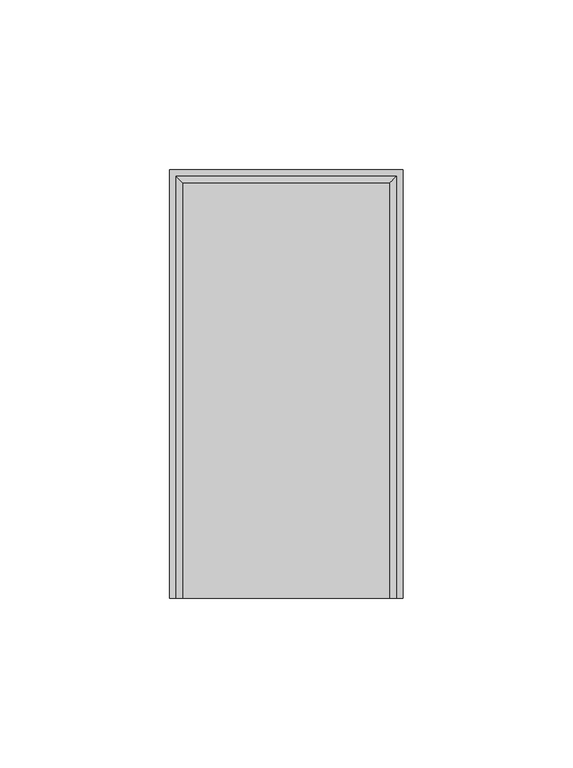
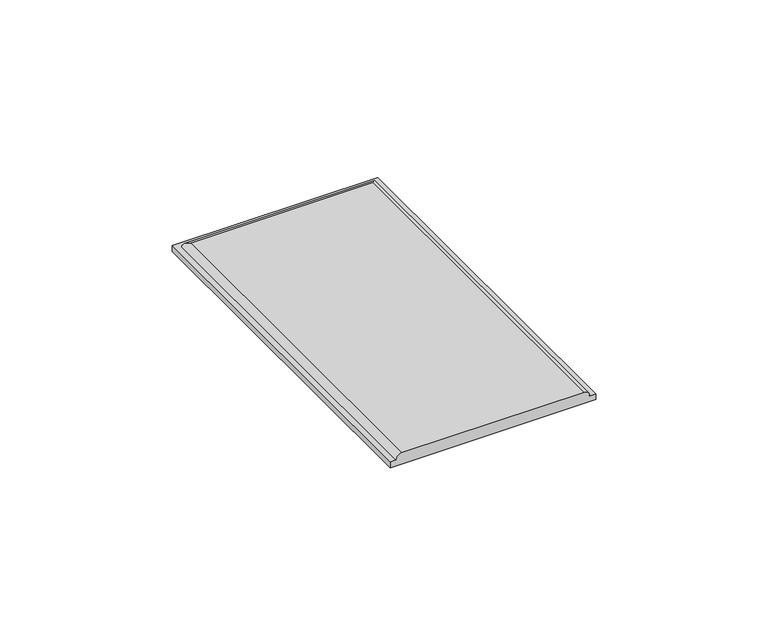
"""IFC4 building model written with IfcOpenShell, lengths in millimetres: proxy geometry, PBSHOP - HORIZONTES NEW YORK 6,5X23 : NEW YORK DOWNTOWN."""

from ifc_helpers import new_model, si_unit, frame, origin, place, context, project, spatial, circle_curve, ellipse_curve, source, transform, mapped, element, save
from ifc_brep_helpers import plane_surface, cylinder_surface, advanced_brep


def generic_models_8a1c671f(model_context):
    return source(origin(), model_context, "Body", "AdvancedBrep", [
        advanced_brep(
        [(30.5, 113.0, 4.0), (-30.5, 113.0, 4.0), (-30.5, -9.5, 4.0), (30.5, -9.5, 4.0), (-34.5, 117.0, 0.0), (34.5, 117.0, 0.0), (34.5, -9.5, 0.0), (-34.5, -9.5, 0.0), (32.5, 115.0, 2.0), (32.5, -9.5, 2.0), (-32.5, 115.0, 2.0), (-32.5, -9.5, 2.0), (34.5, 117.0, 2.0), (-34.5, 117.0, 2.0), (-34.5, -9.5, 2.0), (34.5, -9.5, 2.0)],
        [
            (0, 1),
            (1, 2),
            (2, 3),
            (3, 0),
            (4, 5),
            (5, 6),
            (6, 7),
            (7, 4),
            (8, 0, ellipse_curve(frame((30.5, 113.0, 2.0), z_axis=(0.7071067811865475, -0.7071067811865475, 0.0), x_axis=(0.7071067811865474, 0.7071067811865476, 0.0)), 2.8284271, 2.0)),
            (3, 9, circle_curve(frame((30.5, -9.5, 2.0), z_axis=(0.0, 1.0, 0.0), x_axis=(-1.0, 0.0, 0.0)), 2.0)),
            (9, 8),
            (8, 10),
            (10, 1, ellipse_curve(frame((-30.5, 113.0, 2.0), z_axis=(0.7071067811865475, 0.7071067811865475, 0.0), x_axis=(-0.7071067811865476, 0.7071067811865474, 0.0)), 2.8284271, 2.0)),
            (10, 11),
            (11, 2, circle_curve(frame((-30.5, -9.5, 2.0), z_axis=(0.0, 1.0, 0.0), x_axis=(1.0, 0.0, 0.0)), 2.0)),
            (12, 13),
            (13, 14),
            (14, 11),
            (9, 15),
            (15, 12),
            (12, 5),
            (4, 13),
            (7, 14),
            (15, 6),
        ],
        [
            plane_surface(frame((-32.5, -115.0, 4.0), z_axis=(0.0, 0.0, 1.0), x_axis=(1.0, 0.0, 0.0))),
            plane_surface(frame((-32.5, -115.0, 0.0), z_axis=(0.0, 0.0, -1.0), x_axis=(-1.0, 0.0, 0.0))),
            cylinder_surface(frame((30.5, -115.0, 2.0), z_axis=(0.0, 1.0, 0.0), x_axis=(-1.0, 0.0, 0.0)), 2.0),
            cylinder_surface(frame((32.5, 113.0, 2.0), z_axis=(-1.0, 0.0, 0.0), x_axis=(0.0, -1.0, 0.0)), 2.0),
            cylinder_surface(frame((-30.5, 115.0, 2.0), z_axis=(0.0, -1.0, 0.0), x_axis=(1.0, 0.0, 0.0)), 2.0),
            plane_surface(frame((-34.5, 117.0, 2.0), z_axis=(0.0, 0.0, 1.0), x_axis=(-1.0, 0.0, 0.0))),
            plane_surface(frame((34.5, 117.0, 2.0), z_axis=(0.0, 1.0, 0.0), x_axis=(0.0, 0.0, -1.0))),
            plane_surface(frame((-34.5, 117.0, 2.0), z_axis=(-1.0, 0.0, 0.0), x_axis=(0.0, 0.0, -1.0))),
            plane_surface(frame((34.5, -117.0, 2.0), z_axis=(1.0, 0.0, 0.0), x_axis=(0.0, 0.0, -1.0))),
            plane_surface(frame((34.5, -9.5, 6.3064251), z_axis=(0.0, -1.0, 0.0), x_axis=(0.0, 0.0, -1.0))),
        ],
        [
            (0, [[1, 2, 3, 4]]),
            (1, [[5, 6, 7, 8]]),
            (2, [[9, -4, 10, 11]]),
            (3, [[-9, 12, 13, -1]]),
            (4, [[-13, 14, 15, -2]]),
            (5, [[16, 17, 18, -14, -12, -11, 19, 20]]),
            (6, [[-16, 21, -5, 22]]),
            (7, [[-22, -8, 23, -17]]),
            (8, [[-21, -20, 24, -6]]),
            (9, [[-3, -15, -18, -23, -7, -24, -19, -10]]),
        ],
    ),
    ])


if __name__ == "__main__":
    model = new_model("IFC4")
    model_context = context("Model", 3, world=origin())
    ifc_project = project(units=[si_unit("LENGTHUNIT", "METRE", prefix="MILLI")], contexts=[model_context])
    site = spatial("IfcSite", under=ifc_project)
    building = spatial("IfcBuilding", under=site)
    placement = place(None, origin())
    generic_models_shape = generic_models_8a1c671f(model_context)
    element("IfcBuildingElementProxy", 1, Name="PBSHOP - HORIZONTES NEW YORK 6,5X23 : NEW YORK DOWNTOWN", ObjectType="PBSHOP - HORIZONTES NEW YORK 6,5X23 : NEW YORK DOWNTOWN", at=placement, inside=building, context=model_context, shape_type="MappedRepresentation", body=[
        mapped(generic_models_shape, transform((0.0, 0.0, 0.0), x_axis=(1.0, 0.0, 0.0), y_axis=(0.0, 1.0, 0.0), z_axis=(0.0, 0.0, 1.0))),
    ])
    save(model, "model.ifc")
